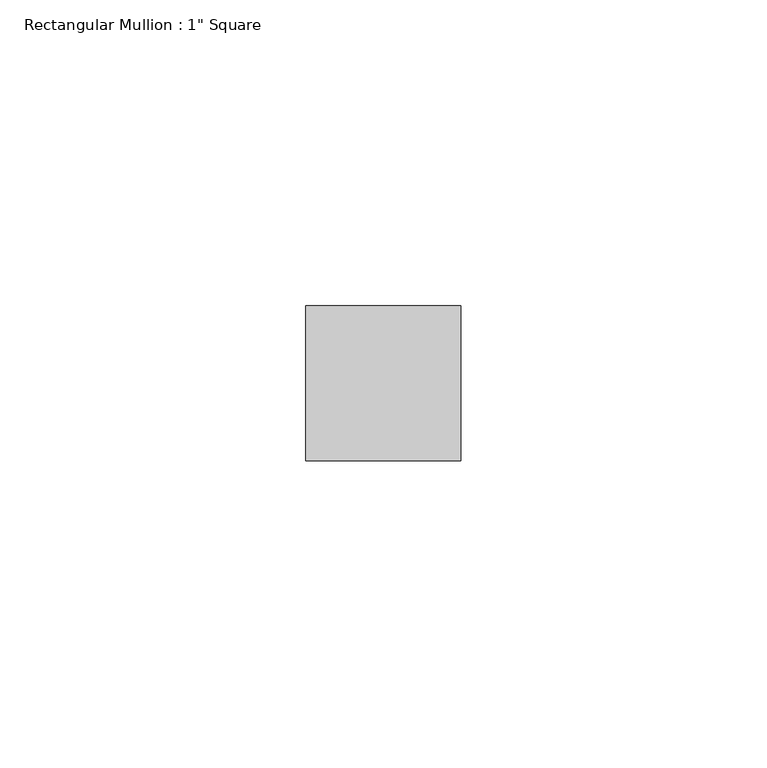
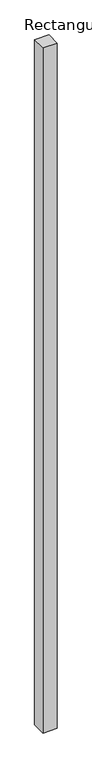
"""IFC4 building model written with IfcOpenShell, lengths in millimetres: member geometry."""

from ifc_helpers import new_model, si_unit, frame, origin, place, context, project, spatial, polyline, outline, extrude, source, transform, mapped, element, save


def member_5ccaa950(model_context):
    return source(origin(), model_context, "Body", "SweptSolid", [
        extrude(outline(polyline([(12.7, 12.7), (12.7, -12.7), (-12.7, -12.7), (-12.7, 12.7), (12.7, 12.7)])), frame((0.0, 0.0, -1303.172574), z_axis=(0.0, 0.0, 1.0), x_axis=(1.0, 0.0, 0.0)), (0.0, 0.0, 1.0), 1303.172574),
    ])


if __name__ == "__main__":
    model = new_model("IFC4")
    model_context = context("Model", 3, world=origin())
    ifc_project = project(units=[si_unit("LENGTHUNIT", "METRE", prefix="MILLI")], contexts=[model_context])
    site = spatial("IfcSite", under=ifc_project)
    building = spatial("IfcBuilding", under=site)
    placement = place(None, origin())
    member_shape = member_5ccaa950(model_context)
    element("IfcMember", 1, ObjectType="Rectangular Mullion : 1\" Square", at=placement, inside=building, context=model_context, shape_type="MappedRepresentation", body=[
        mapped(member_shape, transform((0.0, 0.0, 0.0), x_axis=(1.0, 0.0, 0.0), y_axis=(0.0, 1.0, 0.0), z_axis=(0.0, 0.0, 1.0))),
    ])
    save(model, "model.ifc")
